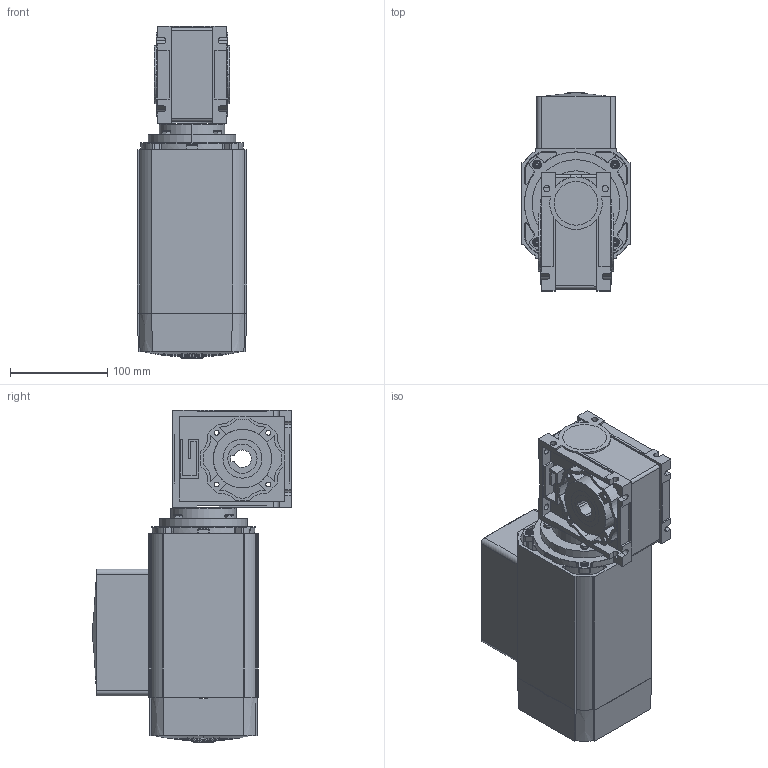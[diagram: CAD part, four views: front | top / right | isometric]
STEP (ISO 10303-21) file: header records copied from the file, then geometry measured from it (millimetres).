
FILE_DESCRIPTION (( 'STEP AP203' ), '1' );
FILE_NAME ('AC10080FC-RA4000T.STEP', '2008-06-30T20:40:57', ( 'eng-rjs' ), ( 'groschopp' ), 'SwSTEP 2.0', 'SolidWorks 2008', '' );
FILE_SCHEMA (( 'CONFIG_CONTROL_DESIGN' ));
Products named in the file (1): AC10080FC-RA4000T
Bounding box: 112.27 x 203.67 x 341.03 mm (x, y, z)
Surface area: 369473.7 mm2 (no closed solid volume)
Topology: 0 solids, 52 shells, 1214 faces, 3993 edges, 2747 vertices
Faces by surface type: plane 757, cylinder 320, cone 49, bspline 43, torus 35, sphere 10
Entity records: 46162 total; most frequent: CARTESIAN_POINT 11223, DIRECTION 7653, ORIENTED_EDGE 6606, EDGE_CURVE 3993, AXIS2_PLACEMENT_3D 2909, VERTEX_POINT 2747, LINE 1835, VECTOR 1835
